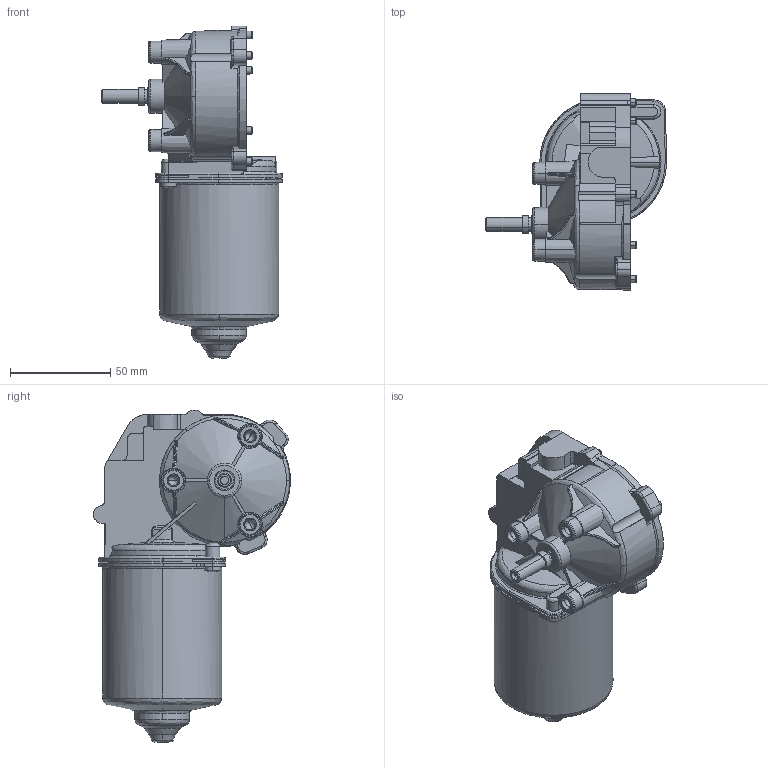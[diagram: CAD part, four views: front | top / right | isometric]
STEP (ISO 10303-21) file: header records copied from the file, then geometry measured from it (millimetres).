
FILE_DESCRIPTION (( 'STEP AP214' ), '1' );
FILE_NAME ('404864.step', '2018-03-15T08:05:55', ( '' ), ( '' ), 'SwSTEP 2.0', 'SolidWorks 2010', '' );
FILE_SCHEMA (( 'AUTOMOTIVE_DESIGN' ));
Length unit declared in the file: millimetre
Products named in the file (3): 404864; Motor-DCK31-Right-KGK; Shaft-W289-KGK
Assembly tree (2 placements, depth 2):
  404864
    Motor-DCK31-Right-KGK
    Shaft-W289-KGK
Bounding box: 90 x 98.03 x 165.2 mm (x, y, z)
Volume: 223119.4 mm3; surface area: 67734.5 mm2
Topology: 2 solids, 4 shells, 614 faces, 1761 edges, 1173 vertices
Faces by surface type: cylinder 179, plane 177, bspline 167, cone 91
Entity records: 33497 total; most frequent: CARTESIAN_POINT 19419, ORIENTED_EDGE 3496, DIRECTION 2102, EDGE_CURVE 1748, VERTEX_POINT 1173, B_SPLINE_CURVE_WITH_KNOTS 867, AXIS2_PLACEMENT_3D 810, EDGE_LOOP 657
